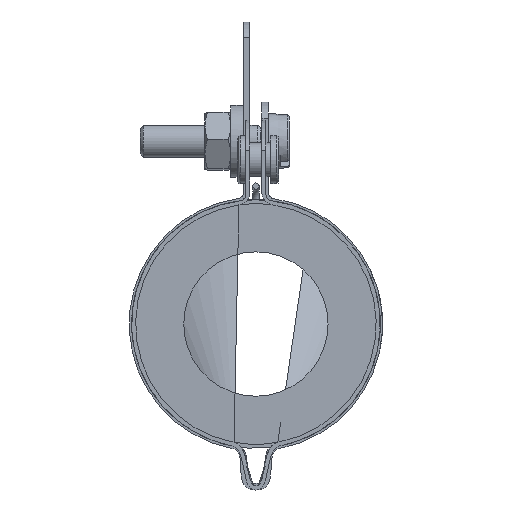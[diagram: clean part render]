
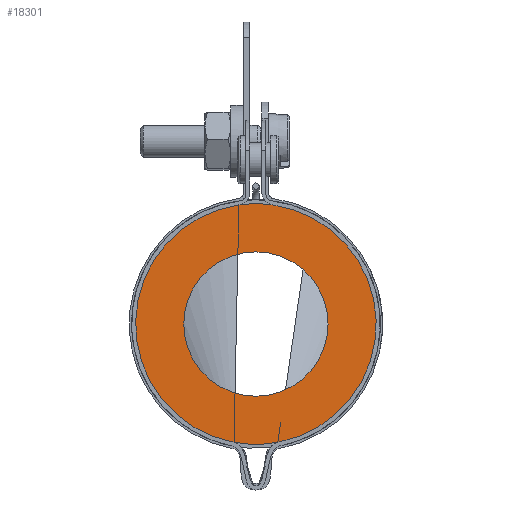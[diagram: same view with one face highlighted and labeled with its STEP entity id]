
A CAD part, front view. The second image highlights one B-rep face of the part: STEP entity #18301.
In plain terms, the highlighted planar face has unit normal (0, -1, 0).
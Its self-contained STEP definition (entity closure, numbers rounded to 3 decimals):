
#69=B_SPLINE_CURVE_WITH_KNOTS($,3,(#30608,#30609,#30610,#30611),
 .UNSPECIFIED.,.F.,.F.,(4,4),(0.,0.018),.UNSPECIFIED.);
#70=B_SPLINE_CURVE_WITH_KNOTS($,3,(#30615,#30616,#30617,#30618),
 .UNSPECIFIED.,.F.,.F.,(4,4),(0.126,0.143),
 .UNSPECIFIED.);
#1588=LINE($,#30620,#3162);
#1589=LINE($,#30627,#3163);
#3162=VECTOR($,#25075,0.099);
#3163=VECTOR($,#25082,0.099);
#3569=FACE_BOUND($,#5417,.T.);
#4432=FACE_OUTER_BOUND($,#5416,.T.);
#5416=EDGE_LOOP($,(#15449,#15450,#15451,#15452,#15453,#15454,#15455,#15456));
#5417=EDGE_LOOP($,(#15457));
#6390=CIRCLE($,#20074,9.);
#6391=CIRCLE($,#20077,15.);
#6392=CIRCLE($,#20078,15.);
#6393=CIRCLE($,#20079,15.);
#6394=CIRCLE($,#20080,15.);
#8063=VERTEX_POINT($,#30602);
#8064=VERTEX_POINT($,#30606);
#8065=VERTEX_POINT($,#30607);
#8066=VERTEX_POINT($,#30612);
#8067=VERTEX_POINT($,#30614);
#8068=VERTEX_POINT($,#30619);
#8069=VERTEX_POINT($,#30621);
#8070=VERTEX_POINT($,#30623);
#8071=VERTEX_POINT($,#30625);
#10555=EDGE_CURVE($,#8063,#8063,#6390,.T.);
#10556=EDGE_CURVE($,#8064,#8065,#69,.T.);
#10557=EDGE_CURVE($,#8065,#8066,#6391,.T.);
#10558=EDGE_CURVE($,#8066,#8067,#70,.T.);
#10559=EDGE_CURVE($,#8067,#8068,#1588,.T.);
#10560=EDGE_CURVE($,#8068,#8069,#6392,.T.);
#10561=EDGE_CURVE($,#8069,#8070,#6393,.T.);
#10562=EDGE_CURVE($,#8070,#8071,#6394,.T.);
#10563=EDGE_CURVE($,#8071,#8064,#1589,.T.);
#15449=ORIENTED_EDGE($,*,*,#10556,.T.);
#15450=ORIENTED_EDGE($,*,*,#10557,.T.);
#15451=ORIENTED_EDGE($,*,*,#10558,.T.);
#15452=ORIENTED_EDGE($,*,*,#10559,.T.);
#15453=ORIENTED_EDGE($,*,*,#10560,.T.);
#15454=ORIENTED_EDGE($,*,*,#10561,.T.);
#15455=ORIENTED_EDGE($,*,*,#10562,.T.);
#15456=ORIENTED_EDGE($,*,*,#10563,.T.);
#15457=ORIENTED_EDGE($,*,*,#10555,.T.);
#16513=PLANE($,#20076);
#18301=ADVANCED_FACE($,(#4432,#3569),#16513,.T.);
#20074=AXIS2_PLACEMENT_3D($,#30603,#25067,#25068);
#20076=AXIS2_PLACEMENT_3D($,#30605,#25071,#25072);
#20077=AXIS2_PLACEMENT_3D($,#30613,#25073,#25074);
#20078=AXIS2_PLACEMENT_3D($,#30622,#25076,#25077);
#20079=AXIS2_PLACEMENT_3D($,#30624,#25078,#25079);
#20080=AXIS2_PLACEMENT_3D($,#30626,#25080,#25081);
#25067=DIRECTION('center_axis',(0.,1.,0.));
#25068=DIRECTION('ref_axis',(1.,0.,0.));
#25071=DIRECTION('center_axis',(0.,-1.,0.));
#25072=DIRECTION('ref_axis',(0.,0.,-1.));
#25073=DIRECTION('center_axis',(0.,-1.,0.));
#25074=DIRECTION('ref_axis',(1.,0.,0.));
#25075=DIRECTION($,(0.995,0.,0.097));
#25076=DIRECTION('center_axis',(0.,-1.,0.));
#25077=DIRECTION('ref_axis',(1.,0.,0.));
#25078=DIRECTION('center_axis',(0.,-1.,0.));
#25079=DIRECTION('ref_axis',(1.,0.,0.));
#25080=DIRECTION('center_axis',(0.,-1.,0.));
#25081=DIRECTION('ref_axis',(1.,0.,0.));
#25082=DIRECTION($,(0.995,0.,-0.097));
#30602=CARTESIAN_POINT('',(-9.,0.,0.));
#30603=CARTESIAN_POINT('Origin',(0.,0.,0.));
#30605=CARTESIAN_POINT('Origin',(0.,0.,0.));
#30606=CARTESIAN_POINT('',(-2.901,0.,-14.707));
#30607=CARTESIAN_POINT('',(-2.731,0.,-14.749));
#30608=CARTESIAN_POINT('Ctrl Pts',(-2.901,0.,-14.707));
#30609=CARTESIAN_POINT('Ctrl Pts',(-2.843,0.,-14.718));
#30610=CARTESIAN_POINT('Ctrl Pts',(-2.786,0.,-14.732));
#30611=CARTESIAN_POINT('Ctrl Pts',(-2.731,0.,-14.749));
#30612=CARTESIAN_POINT('',(2.731,0.,-14.749));
#30613=CARTESIAN_POINT('Origin',(0.,0.,0.));
#30614=CARTESIAN_POINT('',(2.901,0.,-14.707));
#30615=CARTESIAN_POINT('Ctrl Pts',(2.731,0.,
-14.75));
#30616=CARTESIAN_POINT('Ctrl Pts',(2.786,0.,
-14.732));
#30617=CARTESIAN_POINT('Ctrl Pts',(2.843,0.,
-14.718));
#30618=CARTESIAN_POINT('Ctrl Pts',(2.901,0.,
-14.707));
#30619=CARTESIAN_POINT('',(3.,0.,-14.697));
#30620=CARTESIAN_POINT($,(2.176,0.,-14.777));
#30621=CARTESIAN_POINT('',(2.123,0.,14.849));
#30622=CARTESIAN_POINT('Origin',(0.,0.,0.));
#30623=CARTESIAN_POINT('',(-2.123,0.,14.849));
#30624=CARTESIAN_POINT('Origin',(0.,0.,0.));
#30625=CARTESIAN_POINT('',(-3.,0.,-14.697));
#30626=CARTESIAN_POINT('Origin',(0.,0.,0.));
#30627=CARTESIAN_POINT($,(-2.176,0.,-14.777));
